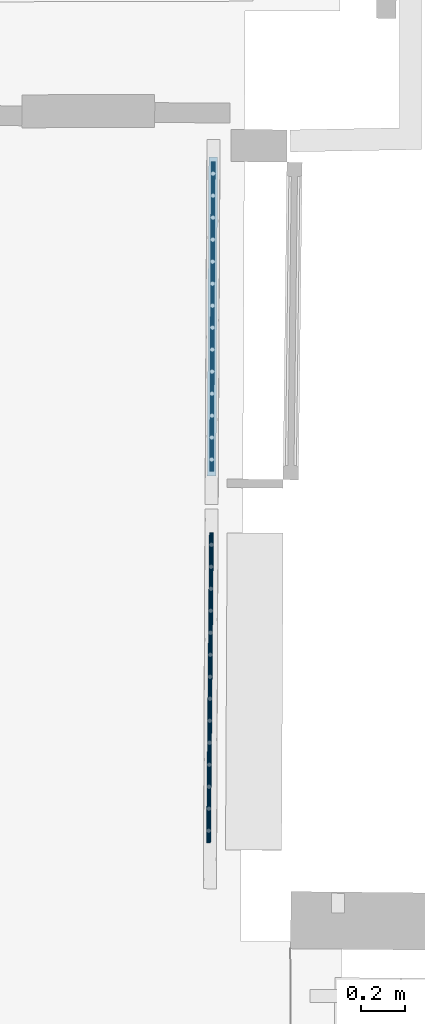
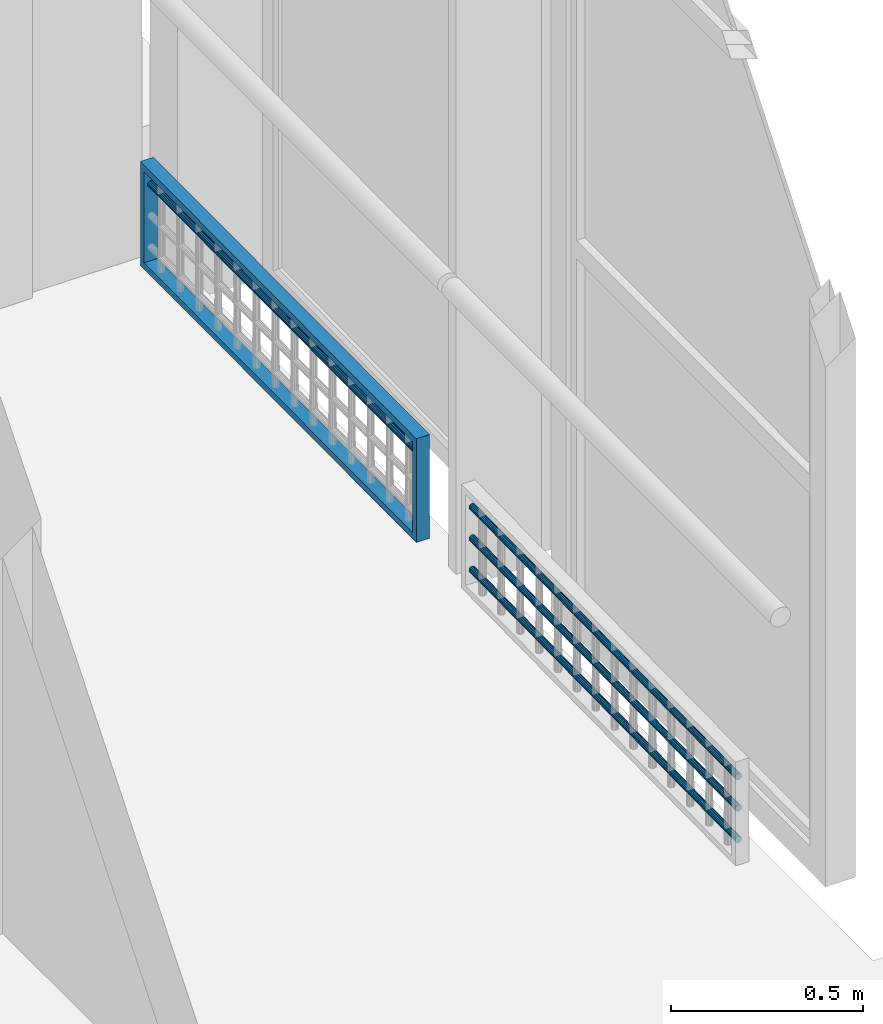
# One storey, part 20 of 66: 5 members, 2 elements without a shape of their own.
"""IFC2X3 building model written with IfcOpenShell, lengths in centimetres."""

from ifc_helpers import new_model, entity, si_unit, converted_unit, direction, frame, origin, origin_with_axes, place, context, subcontext, project, spatial, faceted_brep, material, type_object, element, aggregate, save


model = new_model("IFC2X3")

# Units and contexts
model_context = context("Model", 3, precision=0.0001, world=origin(), true_north=direction((0.225632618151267, 0.974212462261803, 0.0)))
body_context = subcontext(model_context, "Body", "Model", "MODEL_VIEW")
ifc_project = project(units=[si_unit("LENGTHUNIT", "METRE", prefix="CENTI"), si_unit("AREAUNIT", "SQUARE_METRE", prefix="CENTI"), si_unit("VOLUMEUNIT", "CUBIC_METRE", prefix="CENTI"), converted_unit("PLANEANGLEUNIT", "DEGREE", entity("IfcRatioMeasure", 0.0174532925), si_unit("PLANEANGLEUNIT", "RADIAN"), dimensions=[0, 0, 0, 0, 0, 0, 0])], contexts=[model_context])

# Site, building, storey
site_placement = place(None, origin_with_axes())
site = spatial("IfcSite", under=ifc_project, at=site_placement, Name="Default Site", CompositionType="ELEMENT")
building_placement = place(site_placement, origin_with_axes())
building = spatial("IfcBuilding", under=site, at=building_placement, Name="Default Building", CompositionType="ELEMENT")
storey_placement = place(building_placement, frame((0.0, 0.0, 477.795358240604), z_axis=(0.0, 0.0, 1.0), x_axis=(1.0, 0.0, 0.0)))
storey = spatial("IfcBuildingStorey", under=building, at=storey_placement, Name="Niveau 1", CompositionType="ELEMENT", Elevation=477.795358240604)

# Assembly, members
building_element_proxy_type = type_object("IfcBuildingElementProxyType", Name="Type Object", PredefinedType="NOTDEFINED")
assembly_1_placement = place(storey_placement, frame((1064.33713672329, -30.426748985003, 9.99999999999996), z_axis=(0.0, 0.0, 1.0), x_axis=(-0.00922380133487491, -0.999957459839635, 0.0)))
assembly_1 = element("IfcElementAssembly", 1, at=assembly_1_placement, inside=storey, type_object=building_element_proxy_type, Name="Panneau 1702026", ObjectType="Precast panel", PredefinedType="USERDEFINED")
ifc_material = material(Name="Aluminium satiné")
member_1_placement = place(assembly_1_placement, frame((142.999994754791, 0.342020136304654, 25.5603075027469), z_axis=(1.0, -3.72618602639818e-15, -2.15973072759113e-15), x_axis=(-4.30558366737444e-15, -0.866024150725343, -0.500002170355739)))
member_1 = element("IfcMember", 2, at=member_1_placement, material=ifc_material, Name="4294967078", context=body_context, shape_type="Brep", body=[
    faceted_brep([(3.69149155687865e-13, -1.94289029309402e-14, -6.66133814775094e-14), (-0.347296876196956, 3.60822483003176e-14, -6.81129144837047e-14), (-0.673647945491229, -0.118779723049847, -6.95221122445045e-14), (-0.939693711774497, -0.34201812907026, -7.06710187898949e-14), (-1.11334216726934, -0.642784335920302, -7.14210462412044e-14), (-1.17365112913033, -0.984805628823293, -7.16817405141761e-14), (-1.11334356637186, -1.32682410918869, -7.14216455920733e-14), (-0.939696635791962, -1.62759289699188, -7.06721464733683e-14), (-0.673653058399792, -1.85083187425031, -6.95236366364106e-14), (-0.34730123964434, -1.96961451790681, -6.81146416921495e-14), (-4.36344701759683e-06, -1.96961451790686, -6.66151086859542e-14), (0.326346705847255, -1.85083479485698, -6.52059109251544e-14), (0.592392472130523, -1.62759638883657, -6.4057004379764e-14), (0.766040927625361, -1.32683018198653, -6.33069769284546e-14), (0.826349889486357, -0.984808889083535, -6.30462826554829e-14), (0.766042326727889, -0.642790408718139, -6.33063775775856e-14), (0.592395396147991, -0.342021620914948, -6.40558766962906e-14), (0.326351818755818, -0.118782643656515, -6.52043865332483e-14), (0.326351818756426, -0.118782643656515, -140.999994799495), (0.592395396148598, -0.342021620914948, -140.999994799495), (0.766042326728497, -0.642790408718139, -140.999994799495), (0.826349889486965, -0.984808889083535, -140.999994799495), (0.766040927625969, -1.32683018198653, -140.999994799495), (0.592392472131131, -1.62759638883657, -140.999994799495), (0.326346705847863, -1.85083479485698, -140.999994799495), (-4.36344640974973e-06, -1.96961451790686, -140.999994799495), (-0.347301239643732, -1.96961451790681, -140.999994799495), (-0.673653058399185, -1.85083187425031, -140.999994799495), (-0.939696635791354, -1.62759289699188, -140.999994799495), (-1.11334356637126, -1.32682410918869, -140.999994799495), (-1.17365112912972, -0.984805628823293, -140.999994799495), (-1.11334216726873, -0.642784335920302, -140.999994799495), (-0.93969371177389, -0.34201812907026, -140.999994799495), (-0.673647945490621, -0.118779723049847, -140.999994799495), (-0.347296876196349, 3.60822483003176e-14, -140.999994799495), (9.76996261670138e-13, -1.94289029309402e-14, -140.999994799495), (0.326351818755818, -0.118782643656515, -6.66133814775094e-14), (0.592395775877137, -0.342021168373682, -6.66133798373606e-14), (0.592395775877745, -0.342021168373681, -140.999994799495), (0.326351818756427, -0.118782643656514, -140.999994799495), (0.592395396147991, -0.342021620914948, -6.66133814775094e-14), (0.766043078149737, -0.642789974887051, -8.8817838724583e-14), (0.766043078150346, -0.64278997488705, -140.999994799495), (0.592395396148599, -0.342021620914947, -140.999994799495), (0.766042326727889, -0.642790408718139, -8.88178419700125e-14), (0.826348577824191, -0.984809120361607, -8.88178476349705e-14), (0.826348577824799, -0.984809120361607, -140.999994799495), (0.766042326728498, -0.642790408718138, -140.999994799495), (0.826349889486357, -0.984808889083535, -8.88178419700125e-14), (0.766041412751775, -1.32683026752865, -8.88178398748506e-14), (0.766041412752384, -1.32683026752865, -140.999994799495), (0.826349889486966, -0.984808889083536, -140.999994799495), (0.766040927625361, -1.32683018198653, -8.88178419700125e-14), (0.592392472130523, -1.62759638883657, -8.88178419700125e-14), (0.592392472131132, -1.62759638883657, -140.999994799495), (0.76604092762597, -1.32683018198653, -140.999994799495), (0.326346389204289, -1.85083441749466, -8.88178433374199e-14), (0.326346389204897, -1.85083441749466, -140.999994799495), (0.326346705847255, -1.85083479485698, -8.88178419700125e-14), (-3.90791489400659e-06, -1.96961576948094, -8.88178400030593e-14), (-3.90791428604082e-06, -1.96961576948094, -140.999994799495), (-4.36344701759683e-06, -1.96961451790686, -8.88178419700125e-14), (-0.347301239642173, -1.96961365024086, -8.88178419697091e-14), (-0.347301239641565, -1.96961365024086, -140.999994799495), (-0.34730123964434, -1.96961451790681, -8.88178419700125e-14), (-0.673652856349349, -1.8508313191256, -8.88178410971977e-14), (-0.673652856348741, -1.8508313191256, -140.999994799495), (-0.673653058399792, -1.85083187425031, -8.88178419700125e-14), (-0.939697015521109, -1.62759334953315, -8.88178436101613e-14), (-0.939697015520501, -1.62759334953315, -140.999994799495), (-0.673653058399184, -1.85083187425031, -140.999994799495), (-0.939696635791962, -1.62759289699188, -8.88178419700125e-14), (-1.11334431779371, -1.32682454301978, -8.8817845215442e-14), (-1.1133443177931, -1.32682454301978, -140.999994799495), (-0.939696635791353, -1.62759289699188, -140.999994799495), (-1.11334356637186, -1.32682410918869, -8.88178419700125e-14), (-1.17364981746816, -0.984805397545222, -8.88178363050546e-14), (-1.17364981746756, -0.984805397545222, -140.999994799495), (-1.11334356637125, -1.32682410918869, -140.999994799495), (-1.17365112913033, -0.984805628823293, -8.88178419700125e-14), (-1.11334265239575, -0.642784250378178, -8.88178440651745e-14), (-1.11334265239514, -0.642784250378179, -140.999994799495), (-1.11334216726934, -0.642784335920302, -8.88178419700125e-14), (-0.939693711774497, -0.342018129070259, -8.88178419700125e-14), (-0.939693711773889, -0.34201812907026, -140.999994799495), (-0.939693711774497, -0.34201812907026, -8.88178419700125e-14), (-0.673647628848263, -0.118780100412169, -8.88178406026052e-14), (-0.673647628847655, -0.11878010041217, -140.999994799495), (-0.673647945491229, -0.118779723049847, -8.88178419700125e-14), (-0.34729733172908, 1.25157410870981e-06, -8.88178439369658e-14), (-0.347297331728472, 1.25157410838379e-06, -140.999994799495), (-0.673647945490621, -0.118779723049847, -140.999994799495), (-0.347296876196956, 3.60822483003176e-14, -8.88178419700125e-14), (-1.79857620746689e-12, -8.67665968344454e-07, -6.66133814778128e-14), (-1.19072910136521e-12, -8.67665968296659e-07, -140.999994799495), (-0.347296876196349, 3.61300422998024e-14, -140.999994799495), (0.326351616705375, -0.118783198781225, -6.66133823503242e-14), (0.326351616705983, -0.118783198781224, -140.999994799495), (9.77141646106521e-13, -1.90294655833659e-14, -140.999994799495)], [[[0, 1, 2, 3, 4, 5, 6, 7, 8, 9, 10, 11, 12, 13, 14, 15, 16, 17]], [[18, 19, 20, 21, 22, 23, 24, 25, 26, 27, 28, 29, 30, 31, 32, 33, 34, 35]], [[36, 37, 38, 39]], [[40, 41, 42, 43]], [[44, 45, 46, 47]], [[48, 49, 50, 51]], [[52, 53, 54, 55]], [[53, 56, 57, 54]], [[58, 59, 60, 24]], [[61, 62, 63, 25]], [[64, 65, 66, 26]], [[67, 68, 69, 70]], [[71, 72, 73, 74]], [[75, 76, 77, 78]], [[79, 80, 81, 30]], [[82, 83, 84, 31]], [[85, 86, 87, 84]], [[88, 89, 90, 91]], [[92, 93, 94, 95]], [[0, 96, 97, 98]]]),
])
member_2_placement = place(assembly_1_placement, frame((142.999994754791, 0.342020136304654, 15.5603080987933), z_axis=(1.0, -3.72618602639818e-15, -2.15886336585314e-15), x_axis=(-4.30558366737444e-15, -0.86602600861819, -0.499998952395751)))
member_2 = element("IfcMember", 3, at=member_2_placement, material=ifc_material, Name="4294967077", context=body_context, shape_type="Brep", body=[
    faceted_brep([(8.27116153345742e-13, -1.66533453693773e-13, -1.11022302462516e-13), (-0.347296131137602, -1.11022302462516e-13, -1.1252183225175e-13), (-0.673647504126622, -0.11878222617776, -1.13930825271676e-13), (-0.939691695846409, -0.342020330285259, -1.1507933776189e-13), (-1.11333977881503, -0.642788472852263, -1.15828841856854e-13), (-1.17364672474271, -0.984808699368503, -1.16088934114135e-13), (-1.11333863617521, -1.32682824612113, -1.15828243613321e-13), (-0.939690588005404, -1.62759638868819, -1.15078217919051e-13), (-0.673645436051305, -1.85083308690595, -1.13929314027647e-13), (-0.347293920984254, -1.96961580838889, -1.12520114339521e-13), (2.95521067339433e-06, -1.96961451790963, -1.11020581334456e-13), (0.326354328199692, -1.85083229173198, -1.0961158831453e-13), (0.592398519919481, -1.62759418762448, -1.08463075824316e-13), (0.766046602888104, -1.32682604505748, -1.07713571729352e-13), (0.826353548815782, -0.984805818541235, -1.07453479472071e-13), (0.766045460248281, -0.642786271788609, -1.07714169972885e-13), (0.592396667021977, -0.342019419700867, -1.08464198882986e-13), (0.326352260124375, -0.118781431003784, -1.09613099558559e-13), (0.326352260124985, -0.118781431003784, -140.999994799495), (0.592396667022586, -0.342019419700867, -140.999994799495), (0.76604546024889, -0.642786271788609, -140.999994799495), (0.826353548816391, -0.984805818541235, -140.999994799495), (0.766046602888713, -1.32682604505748, -140.999994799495), (0.59239851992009, -1.62759418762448, -140.999994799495), (0.326354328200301, -1.85083229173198, -140.999994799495), (2.95521128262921e-06, -1.96961451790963, -140.999994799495), (-0.347293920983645, -1.96961580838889, -140.999994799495), (-0.673645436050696, -1.85083308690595, -140.999994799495), (-0.939690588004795, -1.62759638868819, -140.999994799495), (-1.1133386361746, -1.32682824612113, -140.999994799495), (-1.1736467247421, -0.984808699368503, -140.999994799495), (-1.11333977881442, -0.642788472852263, -140.999994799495), (-0.9396916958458, -0.342020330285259, -140.999994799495), (-0.673647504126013, -0.11878222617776, -140.999994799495), (-0.347296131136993, -1.11022302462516e-13, -140.999994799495), (1.4363510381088e-12, -1.66533453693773e-13, -140.999994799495), (0.326352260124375, -0.118781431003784, -1.11022302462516e-13), (0.592397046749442, -0.34201896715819, -1.11022300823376e-13), (0.592397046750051, -0.34201896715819, -140.999994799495), (0.326352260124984, -0.118781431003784, -140.999994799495), (0.592396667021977, -0.342019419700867, -1.11022302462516e-13), (0.766045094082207, -0.642786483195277, -1.11022304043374e-13), (0.766045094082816, -0.642786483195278, -140.999994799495), (0.592396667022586, -0.342019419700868, -140.999994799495), (0.766045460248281, -0.642786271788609, -1.11022302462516e-13), (0.826353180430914, -0.984805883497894, -1.11022304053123e-13), (0.826353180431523, -0.984805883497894, -140.999994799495), (0.826353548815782, -0.984805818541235, -1.11022302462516e-13), (0.766046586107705, -1.32682604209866, -1.11022302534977e-13), (0.766046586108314, -1.32682604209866, -140.999994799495), (0.766046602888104, -1.32682604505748, -1.11022302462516e-13), (0.592398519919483, -1.62759418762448, -1.11022302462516e-13), (0.592398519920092, -1.62759418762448, -140.999994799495), (0.592398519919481, -1.62759418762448, -1.11022302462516e-13), (0.326354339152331, -1.85083230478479, -1.11022302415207e-13), (0.32635433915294, -1.85083230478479, -140.999994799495), (0.326354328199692, -1.85083229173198, -1.11022302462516e-13), (3.08314984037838e-06, -1.9696148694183, -1.11022301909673e-13), (3.08315044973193e-06, -1.9696148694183, -140.999994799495), (2.95521067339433e-06, -1.96961451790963, -1.11022302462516e-13), (-0.34729392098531, -1.96961494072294, -1.11022302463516e-13), (-0.347293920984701, -1.96961494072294, -140.999994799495), (-0.347293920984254, -1.96961580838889, -1.11022302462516e-13), (-0.673645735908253, -1.85083391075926, -1.11022303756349e-13), (-0.673645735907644, -1.85083391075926, -140.999994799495), (-0.673645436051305, -1.85083308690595, -1.11022302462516e-13), (-0.939690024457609, -1.62759571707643, -1.11022300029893e-13), (-0.939690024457, -1.62759571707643, -140.999994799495), (-0.939690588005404, -1.62759638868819, -1.11022302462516e-13), (-1.11333938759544, -1.32682867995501, -1.11022305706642e-13), (-1.11333938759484, -1.32682867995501, -140.999994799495), (-0.939690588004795, -1.62759638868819, -140.999994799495), (-1.11333863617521, -1.32682824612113, -1.11022302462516e-13), (-1.17364635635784, -0.984808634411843, -1.11022300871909e-13), (-1.17364635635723, -0.984808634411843, -140.999994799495), (-1.17364672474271, -0.984808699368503, -1.11022302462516e-13), (-1.11333976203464, -0.642788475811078, -1.11022302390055e-13), (-1.11333976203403, -0.642788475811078, -140.999994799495), (-1.11333977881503, -0.642788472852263, -1.11022302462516e-13), (-0.939691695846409, -0.342020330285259, -1.11022302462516e-13), (-0.673647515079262, -0.118782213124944, -1.11022302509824e-13), (-0.673647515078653, -0.118782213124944, -140.999994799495), (-0.673647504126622, -0.11878222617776, -1.11022302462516e-13), (-0.347296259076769, 3.51508563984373e-07, -1.11022303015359e-13), (-0.34729625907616, 3.51508563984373e-07, -140.999994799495), (-0.347296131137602, -1.11022302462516e-13, -1.11022302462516e-13), (3.12367107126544e-13, 4.22812292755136e-07, -1.11022302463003e-13), (9.21601992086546e-13, 4.22812292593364e-07, -140.999994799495), (-0.347296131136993, -1.11184074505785e-13, -140.999994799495), (0.326352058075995, -0.118781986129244, -1.11022303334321e-13), (0.326352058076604, -0.118781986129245, -140.999994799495), (1.43625242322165e-12, -1.66804396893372e-13, -140.999994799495)], [[[0, 1, 2, 3, 4, 5, 6, 7, 8, 9, 10, 11, 12, 13, 14, 15, 16, 17]], [[18, 19, 20, 21, 22, 23, 24, 25, 26, 27, 28, 29, 30, 31, 32, 33, 34, 35]], [[36, 37, 38, 39]], [[40, 41, 42, 43]], [[44, 45, 46, 20]], [[47, 48, 49, 21]], [[50, 51, 52, 22]], [[53, 54, 55, 23]], [[56, 57, 58, 24]], [[59, 60, 61, 25]], [[62, 63, 64, 26]], [[65, 66, 67, 27]], [[68, 69, 70, 71]], [[72, 73, 74, 29]], [[75, 76, 77, 30]], [[78, 79, 32, 31]], [[79, 80, 81, 32]], [[82, 83, 84, 33]], [[85, 86, 87, 88]], [[0, 89, 90, 91]]]),
])
member_3_placement = place(assembly_1_placement, frame((142.999994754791, 0.342020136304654, 5.56030720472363), z_axis=(1.0, -3.72618602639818e-15, -2.15886336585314e-15), x_axis=(-4.30558366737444e-15, -0.866025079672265, -0.500000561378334)))
member_3 = element("IfcMember", 4, at=member_3_placement, material=ifc_material, Name="4294967076", context=body_context, shape_type="Brep", body=[
    faceted_brep([(5.50948175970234e-13, -9.0205620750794e-15, -8.88178419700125e-14), (-0.347296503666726, 4.37150315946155e-14, -9.03167709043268e-14), (-0.673648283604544, -0.118781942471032, -9.17251995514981e-14), (-0.939693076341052, -0.342019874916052, -9.28732531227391e-14), (-1.11334134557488, -0.642787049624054, -9.36224567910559e-14), (-1.17364892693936, -0.984807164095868, -9.38824471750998e-14), (-1.11334184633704, -1.32682746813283, -9.36218656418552e-14), (-0.939693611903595, -1.62759464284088, -9.28721403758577e-14), (-0.673649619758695, -1.85083312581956, -9.17237030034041e-14), (-0.347297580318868, -1.96961516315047, -9.03150671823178e-14), (-1.44918103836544e-06, -1.96961580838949, -8.8816139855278e-14), (0.326350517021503, -1.85083354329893, -8.74077104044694e-14), (0.592395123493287, -1.6275959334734, -8.62596576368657e-14), (0.766043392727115, -1.32682875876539, -8.55104539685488e-14), (0.826351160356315, -0.984808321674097, -8.52504627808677e-14), (0.766043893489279, -0.642788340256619, -8.55110451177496e-14), (0.592396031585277, -0.342020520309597, -8.62607687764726e-14), (0.32635166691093, -0.118782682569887, -8.74092077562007e-14), (0.326351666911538, -0.118782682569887, -140.999994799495), (0.592396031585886, -0.342020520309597, -140.999994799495), (0.766043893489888, -0.642788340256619, -140.999994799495), (0.826351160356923, -0.984808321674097, -140.999994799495), (0.766043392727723, -1.32682875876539, -140.999994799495), (0.592395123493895, -1.6275959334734, -140.999994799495), (0.326350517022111, -1.85083354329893, -140.999994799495), (-1.44918042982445e-06, -1.96961580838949, -140.999994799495), (-0.347297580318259, -1.96961516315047, -140.999994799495), (-0.673649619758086, -1.85083312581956, -140.999994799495), (-0.939693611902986, -1.62759464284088, -140.999994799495), (-1.11334184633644, -1.32682746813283, -140.999994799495), (-1.17364892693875, -0.984807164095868, -140.999994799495), (-1.11334134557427, -0.642787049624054, -140.999994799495), (-0.939693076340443, -0.342019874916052, -140.999994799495), (-0.673648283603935, -0.118781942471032, -140.999994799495), (-0.347296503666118, 4.37150315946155e-14, -140.999994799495), (1.1594891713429e-12, -9.0205620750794e-15, -140.999994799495), (0.32635166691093, -0.118782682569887, -8.88178419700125e-14), (0.592395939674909, -0.342020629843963, -8.8817842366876e-14), (0.592395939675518, -0.342020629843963, -140.999994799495), (0.592396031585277, -0.342020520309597, -8.88178419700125e-14), (0.766044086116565, -0.642788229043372, -8.88178411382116e-14), (0.766044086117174, -0.642788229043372, -140.999994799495), (0.766043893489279, -0.642788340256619, -8.88178419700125e-14), (0.826351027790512, -0.984808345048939, -8.88178425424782e-14), (0.82635102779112, -0.984808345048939, -140.999994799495), (0.766043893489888, -0.642788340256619, -140.999994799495), (0.826351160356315, -0.984808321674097, -8.88178419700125e-14), (0.766043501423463, -1.32682877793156, -8.88178415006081e-14), (0.766043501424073, -1.32682877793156, -140.999994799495), (0.766043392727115, -1.32682875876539, -8.88178419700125e-14), (0.592395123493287, -1.6275959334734, -8.88178419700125e-14), (0.592395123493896, -1.6275959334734, -140.999994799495), (0.592395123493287, -1.6275959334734, -8.88178419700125e-14), (0.326350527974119, -1.85083355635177, -8.88178419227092e-14), (0.326350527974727, -1.85083355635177, -140.999994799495), (0.326350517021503, -1.85083354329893, -8.88178419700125e-14), (-1.48504049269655e-06, -1.96961570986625, -8.88178421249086e-14), (-1.48503988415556e-06, -1.96961570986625, -140.999994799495), (-1.44918103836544e-06, -1.96961580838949, -8.88178419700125e-14), (-0.347297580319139, -1.96961558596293, -8.88178419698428e-14), (-0.34729758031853, -1.96961558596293, -140.999994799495), (-0.347297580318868, -1.96961516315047, -8.88178419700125e-14), (-0.673649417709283, -1.85083257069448, -8.88178410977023e-14), (-0.673649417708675, -1.85083257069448, -140.999994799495), (-0.673649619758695, -1.85083312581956, -8.88178419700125e-14), (-0.939693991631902, -1.62759509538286, -8.88178436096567e-14), (-0.939693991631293, -1.62759509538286, -140.999994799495), (-0.939693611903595, -1.62759464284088, -8.88178419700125e-14), (-1.11334148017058, -1.32682725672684, -8.88178403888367e-14), (-1.11334148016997, -1.32682725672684, -140.999994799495), (-1.11334184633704, -1.32682746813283, -8.88178419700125e-14), (-1.17364903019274, -0.984807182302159, -8.88178424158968e-14), (-1.17364903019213, -0.984807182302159, -140.999994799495), (-1.11334184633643, -1.32682746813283, -140.999994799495), (-1.17364892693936, -0.984807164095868, -8.88178419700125e-14), (-1.11334132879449, -0.642787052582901, -8.88178418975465e-14), (-1.11334132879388, -0.642787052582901, -140.999994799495), (-1.11334134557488, -0.642787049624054, -8.88178419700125e-14), (-0.939693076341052, -0.342019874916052, -8.88178419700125e-14), (-1.11334134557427, -0.642787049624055, -140.999994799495), (-0.673648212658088, -0.118782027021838, -8.88178416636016e-14), (-0.67364821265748, -0.118782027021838, -140.999994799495), (-0.673648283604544, -0.118781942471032, -8.88178419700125e-14), (-0.347296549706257, 1.26492878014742e-07, -8.88178421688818e-14), (-0.347296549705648, 1.26492877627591e-07, -140.999994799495), (-0.347296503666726, 4.37150315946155e-14, -8.88178419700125e-14), (4.08494482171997e-13, -2.22426756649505e-07, -8.88178419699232e-14), (1.01703547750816e-12, -2.22426756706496e-07, -140.999994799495), (-0.347296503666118, 4.36580417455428e-14, -140.999994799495), (0.326351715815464, -0.118782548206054, -8.88178417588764e-14), (0.326351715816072, -0.118782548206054, -140.999994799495), (1.15951255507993e-12, -8.95631591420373e-15, -140.999994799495)], [[[0, 1, 2, 3, 4, 5, 6, 7, 8, 9, 10, 11, 12, 13, 14, 15, 16, 17]], [[18, 19, 20, 21, 22, 23, 24, 25, 26, 27, 28, 29, 30, 31, 32, 33, 34, 35]], [[36, 37, 38, 18]], [[39, 40, 41, 19]], [[42, 43, 44, 45]], [[46, 47, 48, 21]], [[49, 50, 51, 22]], [[52, 53, 54, 51]], [[55, 56, 57, 24]], [[58, 59, 60, 25]], [[61, 62, 63, 26]], [[64, 65, 66, 27]], [[67, 68, 69, 28]], [[70, 71, 72, 73]], [[74, 75, 76, 30]], [[77, 78, 32, 79]], [[78, 80, 81, 32]], [[82, 83, 84, 33]], [[85, 86, 87, 88]], [[0, 89, 90, 91]]]),
])
aggregate(assembly_1, [member_1, member_2, member_3])

assembly_2_placement = place(storey_placement, frame((1065.11691205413, 138.297750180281, 9.99999999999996), z_axis=(0.0, 0.0, 1.0), x_axis=(-0.00486371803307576, -0.999988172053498, 0.0)))
assembly_2 = element("IfcElementAssembly", 5, at=assembly_2_placement, inside=storey, type_object=building_element_proxy_type, Name="Panneau 1702029", ObjectType="Precast panel", PredefinedType="USERDEFINED")
member_4_placement = place(assembly_2_placement, frame((1.99999995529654, 1.99999995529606, 31.0000002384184), z_axis=(1.0, -5.28223298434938e-16, -1.19636099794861e-17), x_axis=(5.28223298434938e-16, 1.0, 0.0)))
member_4 = element("IfcMember", 6, at=member_4_placement, material=ifc_material, Name="4294967061", context=body_context, shape_type="Brep", body=[
    faceted_brep([(3.55965257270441e-13, 8.32667268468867e-14, -4.61436444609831e-14), (-3.99999991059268, 8.32667268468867e-14, -4.40307513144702e-14), (-3.99999991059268, -29.000000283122, -4.40307513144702e-14), (3.55965257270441e-13, -29.000000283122, -4.61436444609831e-14), (-3.99999991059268, 8.32667268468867e-14, -4.40619762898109e-14), (-3.99999991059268, 2.00000107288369, -1.99999995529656), (-3.99999991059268, -31.0000002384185, -1.99999995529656), (-3.99999991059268, -29.000000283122, -4.37150315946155e-14), (3.54924423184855e-13, 2.00000107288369, -1.99999995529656), (3.54924423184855e-13, -31.0000002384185, -1.99999995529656), (3.55980869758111e-13, 8.32667268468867e-14, -4.61436444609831e-14), (3.55980869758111e-13, -29.000000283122, -4.57966997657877e-14), (3.55965257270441e-13, -29.000000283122, -4.57966997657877e-14), (-3.9999999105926, -29.000000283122, 140.999994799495), (4.30558366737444e-13, -29.000000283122, 140.999994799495), (-3.9999999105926, -31.0000002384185, 143.000004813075), (4.3159920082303e-13, -31.0000002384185, 143.000004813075), (4.30460352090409e-13, -29.000000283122, 140.999994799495), (4.31516803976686e-13, -31.0000002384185, 143.000004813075), (-3.9999999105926, 8.32667268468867e-14, 140.999994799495), (4.30558366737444e-13, 8.32667268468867e-14, 140.999994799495), (-3.9999999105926, 2.00000107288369, 143.000004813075), (4.3159920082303e-13, 2.00000107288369, 143.000004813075), (4.30542748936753e-13, -29.000000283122, 140.999994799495), (4.30542748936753e-13, 8.32667268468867e-14, 140.999994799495), (-3.99999991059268, 8.1579857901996e-14, -4.40619762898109e-14), (3.55965257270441e-13, 8.1579857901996e-14, -4.61436444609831e-14), (3.56063266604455e-13, 8.32667268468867e-14, -4.61436444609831e-14), (3.55006820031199e-13, 2.00000107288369, -1.99999995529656)], [[[0, 1, 2, 3]], [[4, 5, 6, 7]], [[5, 8, 9, 6]], [[8, 10, 11, 9]], [[12, 7, 13, 14]], [[7, 6, 15, 13]], [[6, 9, 16, 15]], [[9, 11, 17, 18]], [[14, 13, 19, 20]], [[13, 15, 21, 19]], [[15, 16, 22, 21]], [[16, 23, 24, 22]], [[20, 19, 25, 26]], [[19, 21, 5, 4]], [[21, 22, 8, 5]], [[22, 24, 27, 28]]]),
])
member_5_placement = place(assembly_2_placement, frame((142.999994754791, 0.342020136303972, 25.5603075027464), z_axis=(1.0, -4.41625902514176e-14, -2.54969656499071e-14), x_axis=(-5.09930639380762e-14, -0.866024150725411, -0.500002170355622)))
member_5 = element("IfcMember", 7, at=member_5_placement, material=ifc_material, Name="4294967060", context=body_context, shape_type="Brep", body=[
    faceted_brep([(-1.19348975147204e-13, 6.10622663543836e-14, 2.22044604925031e-14), (-0.347296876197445, 6.66133814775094e-14, 4.49412621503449e-15), (-0.673647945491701, -0.118779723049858, -1.21480293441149e-14), (-0.939693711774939, -0.342018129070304, -2.5714882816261e-14), (-1.11334216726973, -0.642784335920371, -3.45699204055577e-14), (-1.17365112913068, -0.984805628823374, -3.76452154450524e-14), (-1.11334356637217, -1.32682410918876, -3.45696950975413e-14), (-0.939696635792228, -1.62759289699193, -2.57144743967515e-14), (-0.673653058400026, -1.85083187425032, -1.21475389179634e-14), (-0.347301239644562, -1.96961451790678, 4.49475788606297e-15), (-4.36344723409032e-06, -1.96961451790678, 2.22050921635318e-14), (0.326346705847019, -1.85083479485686, 3.8847247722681e-14), (0.592392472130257, -1.62759638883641, 5.24141011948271e-14), (0.766040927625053, -1.32683018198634, 6.12691387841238e-14), (0.826349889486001, -0.984808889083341, 6.43444338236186e-14), (0.76604232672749, -0.642790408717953, 6.12689134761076e-14), (0.592395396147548, -0.34202162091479, 5.24136927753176e-14), (0.326351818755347, -0.11878264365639, 3.88467572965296e-14), (0.326351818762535, -0.11878264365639, -140.999994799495), (0.592395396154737, -0.34202162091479, -140.999994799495), (0.766042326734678, -0.642790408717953, -140.999994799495), (0.82634988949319, -0.984808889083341, -140.999994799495), (0.766040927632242, -1.32683018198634, -140.999994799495), (0.592392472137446, -1.62759638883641, -140.999994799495), (0.326346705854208, -1.85083479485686, -140.999994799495), (-4.36344004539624e-06, -1.96961451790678, -140.999994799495), (-0.347301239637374, -1.96961451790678, -140.999994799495), (-0.673653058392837, -1.85083187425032, -140.999994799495), (-0.939696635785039, -1.62759289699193, -140.999994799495), (-1.11334356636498, -1.32682410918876, -140.999994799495), (-1.17365112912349, -0.984805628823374, -140.999994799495), (-1.11334216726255, -0.642784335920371, -140.999994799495), (-0.93969371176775, -0.342018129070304, -140.999994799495), (-0.673647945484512, -0.118779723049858, -140.999994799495), (-0.347296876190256, 6.66133814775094e-14, -140.999994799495), (7.06934510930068e-12, 6.10622663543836e-14, -140.999994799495), (0.326351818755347, -0.11878264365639, 4.44089209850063e-14), (0.592395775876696, -0.342021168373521, 6.66134008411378e-14), (0.592395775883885, -0.342021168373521, -140.999994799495), (0.326351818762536, -0.118782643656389, -140.999994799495), (0.592395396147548, -0.34202162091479, 6.66133814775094e-14), (0.766043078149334, -0.642789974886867, 4.44089593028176e-14), (0.766043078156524, -0.642789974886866, -140.999994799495), (0.592395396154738, -0.342021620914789, -140.999994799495), (0.76604232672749, -0.642790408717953, 4.44089209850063e-14), (0.826348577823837, -0.984809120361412, 6.66133145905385e-14), (0.826348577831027, -0.984809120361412, -140.999994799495), (0.76604232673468, -0.642790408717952, -140.999994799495), (0.826349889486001, -0.984808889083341, 6.66133814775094e-14), (0.766041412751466, -1.32683026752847, 6.66134062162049e-14), (0.766041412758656, -1.32683026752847, -140.999994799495), (0.826349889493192, -0.984808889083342, -140.999994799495), (0.766040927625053, -1.32683018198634, 6.66133814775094e-14), (0.592392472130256, -1.62759638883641, 4.44089209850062e-14), (0.766040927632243, -1.32683018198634, -140.999994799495), (0.592392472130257, -1.62759638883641, 4.44089209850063e-14), (0.326346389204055, -1.85083441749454, 4.44089048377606e-14), (0.326346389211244, -1.85083441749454, -140.999994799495), (0.592392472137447, -1.62759638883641, -140.999994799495), (0.326346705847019, -1.85083479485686, 4.44089209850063e-14), (-3.90791510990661e-06, -1.96961576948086, 2.22044837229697e-14), (-3.90790792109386e-06, -1.96961576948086, -140.999994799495), (-4.36344723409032e-06, -1.96961451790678, 2.22044604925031e-14), (-0.347301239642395, -1.96961365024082, -5.64961975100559e-25), (-0.347301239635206, -1.96961365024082, -140.999994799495), (-0.347301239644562, -1.96961451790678, 0.0), (-0.673652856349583, -1.85083131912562, -2.22044501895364e-14), (-0.673652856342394, -1.85083131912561, -140.999994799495), (-0.673653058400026, -1.85083187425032, -2.22044604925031e-14), (-0.939697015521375, -1.62759334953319, -4.44089403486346e-14), (-0.939697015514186, -1.62759334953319, -140.999994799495), (-0.673653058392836, -1.85083187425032, -140.999994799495), (-0.939696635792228, -1.62759289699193, -4.44089209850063e-14), (-1.11334431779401, -1.32682454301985, -2.22044988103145e-14), (-1.11334431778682, -1.32682454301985, -140.999994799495), (-0.939696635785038, -1.62759289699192, -140.999994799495), (-1.11334356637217, -1.32682410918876, -2.22044604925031e-14), (-1.17364981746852, -0.984805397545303, -4.44088540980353e-14), (-1.17364981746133, -0.984805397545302, -140.999994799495), (-1.17365112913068, -0.984805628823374, -4.44089209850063e-14), (-1.11334265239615, -0.642784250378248, -4.44089457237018e-14), (-1.11334265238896, -0.642784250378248, -140.999994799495), (-1.11334216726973, -0.642784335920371, -4.44089209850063e-14), (-0.939693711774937, -0.342018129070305, -2.22044604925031e-14), (-0.939693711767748, -0.342018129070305, -140.999994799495), (-1.11334216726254, -0.642784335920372, -140.999994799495), (-0.939693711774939, -0.342018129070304, -2.22044604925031e-14), (-0.673647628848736, -0.118780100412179, -2.22044443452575e-14), (-0.673647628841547, -0.118780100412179, -140.999994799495), (-0.939693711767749, -0.342018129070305, -140.999994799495), (-0.673647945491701, -0.118779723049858, -2.22044604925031e-14), (-0.347297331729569, 1.25157414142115e-06, -2.32304665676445e-20), (-0.34729733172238, 1.25157414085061e-06, -140.999994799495), (-0.673647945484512, -0.118779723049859, -140.999994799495), (-0.347296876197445, 6.66133814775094e-14, 0.0), (-2.28707422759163e-12, -8.67665890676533e-07, 2.22044604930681e-14), (4.90161985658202e-12, -8.67665890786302e-07, -140.999994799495), (-0.347296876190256, 6.65036124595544e-14, -140.999994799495), (0.326351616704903, -0.1187831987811, 4.44089106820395e-14), (0.326351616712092, -0.1187831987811, -140.999994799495), (7.06948372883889e-12, 6.14431174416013e-14, -140.999994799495)], [[[0, 1, 2, 3, 4, 5, 6, 7, 8, 9, 10, 11, 12, 13, 14, 15, 16, 17]], [[18, 19, 20, 21, 22, 23, 24, 25, 26, 27, 28, 29, 30, 31, 32, 33, 34, 35]], [[36, 37, 38, 39]], [[40, 41, 42, 43]], [[44, 45, 46, 47]], [[48, 49, 50, 51]], [[52, 53, 23, 54]], [[55, 56, 57, 58]], [[59, 60, 61, 24]], [[62, 63, 64, 25]], [[65, 66, 67, 26]], [[68, 69, 70, 71]], [[72, 73, 74, 75]], [[76, 77, 78, 29]], [[79, 80, 81, 30]], [[82, 83, 84, 85]], [[86, 87, 88, 89]], [[90, 91, 92, 93]], [[94, 95, 96, 97]], [[0, 98, 99, 100]]]),
])
aggregate(assembly_2, [member_4, member_5])

save(model, "model.ifc")
